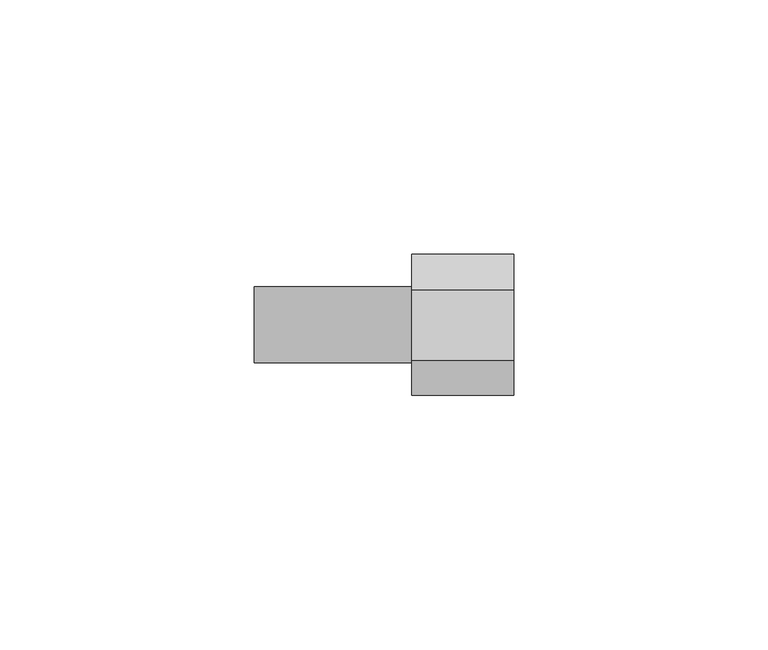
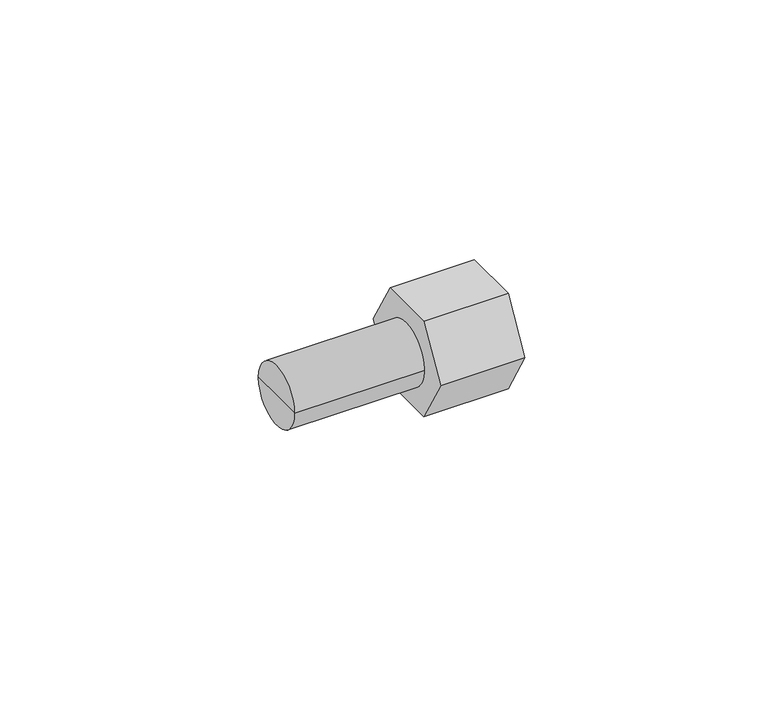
"""IFC4 building model written with IfcOpenShell, lengths in millimetres: pipe fitting geometry, KAN-therm Steel końcówka z GW do zaprasowania : KAN-therm Steel końcówka z GW do zaprasowania."""

from ifc_helpers import new_model, si_unit, frame, origin, place, context, project, spatial, polyline, circle_curve, outline, extrude, source, transform, mapped, element, save
from ifc_brep_helpers import plane_surface, cylinder_surface, advanced_brep


def pipe_fitting_b4462cad(model_context):
    return source(origin(), model_context, "Body", "SolidModel", [
        extrude(outline(polyline([(-13.8564065, 0.0), (-6.9282032, 12.0), (6.9282032, 12.0), (13.8564065, 0.0), (6.9282032, -12.0), (-6.9282032, -12.0), (-13.8564065, 0.0)])), frame((0.0, 0.0, 0.0), z_axis=(1.0, 0.0, 0.0), x_axis=(0.0, 1.0, 0.0)), (0.0, 0.0, 1.0), 20.0),
        advanced_brep(
        [(-31.0, -7.5, 0.0), (-31.0, 7.5, 0.0), (0.0, 7.5, 0.0), (0.0, -7.5, 0.0), (-31.0, 0.0, 0.0), (0.0, 0.0, 0.0)],
        [
            (0, 1, circle_curve(frame((-31.0, 0.0, 0.0), z_axis=(1.0, 0.0, 0.0), x_axis=(0.0, 1.0, 0.0)), 7.5)),
            (1, 2),
            (2, 3, circle_curve(frame((0.0, 0.0, 0.0), z_axis=(-1.0, 0.0, 0.0), x_axis=(0.0, 1.0, 0.0)), 7.5)),
            (3, 0),
            (1, 0, circle_curve(frame((-31.0, 0.0, 0.0), z_axis=(1.0, 0.0, 0.0), x_axis=(0.0, 1.0, 0.0)), 7.5)),
            (3, 2, circle_curve(frame((0.0, 0.0, 0.0), z_axis=(-1.0, 0.0, 0.0), x_axis=(0.0, 1.0, 0.0)), 7.5)),
            (4, 1),
            (0, 4),
            (2, 5),
            (5, 3),
        ],
        [
            cylinder_surface(frame((1348.742668, 0.0, 0.0), z_axis=(-1.0, 0.0, 0.0), x_axis=(0.0, 1.0, 0.0)), 7.5),
            plane_surface(frame((-31.0, 0.0, 0.0), z_axis=(-1.0, 0.0, 0.0), x_axis=(0.0, 1.0, 0.0))),
            plane_surface(frame((0.0, 0.0, 0.0), z_axis=(1.0, 0.0, 0.0), x_axis=(0.0, 1.0, 0.0))),
        ],
        [
            (0, [[1, 2, 3, 4]]),
            (0, [[5, -4, 6, -2]]),
            (1, [[7, -1, 8]]),
            (1, [[-8, -5, -7]]),
            (2, [[-3, 9, 10]]),
            (2, [[-6, -10, -9]]),
        ],
    ),
    ])


if __name__ == "__main__":
    model = new_model("IFC4")
    model_context = context("Model", 3, world=origin())
    ifc_project = project(units=[si_unit("LENGTHUNIT", "METRE", prefix="MILLI")], contexts=[model_context])
    site = spatial("IfcSite", under=ifc_project)
    building = spatial("IfcBuilding", under=site)
    placement = place(None, origin())
    pipe_fitting_shape = pipe_fitting_b4462cad(model_context)
    element("IfcPipeFitting", 1, ObjectType="KAN-therm Steel końcówka z GW do zaprasowania : KAN-therm Steel końcówka z GW do zaprasowania", at=placement, inside=building, context=model_context, shape_type="MappedRepresentation", body=[
        mapped(pipe_fitting_shape, transform((0.0, 0.0, 0.0), x_axis=(1.0, 0.0, 0.0), y_axis=(0.0, 1.0, 0.0), z_axis=(0.0, 0.0, 1.0))),
    ])
    save(model, "model.ifc")
